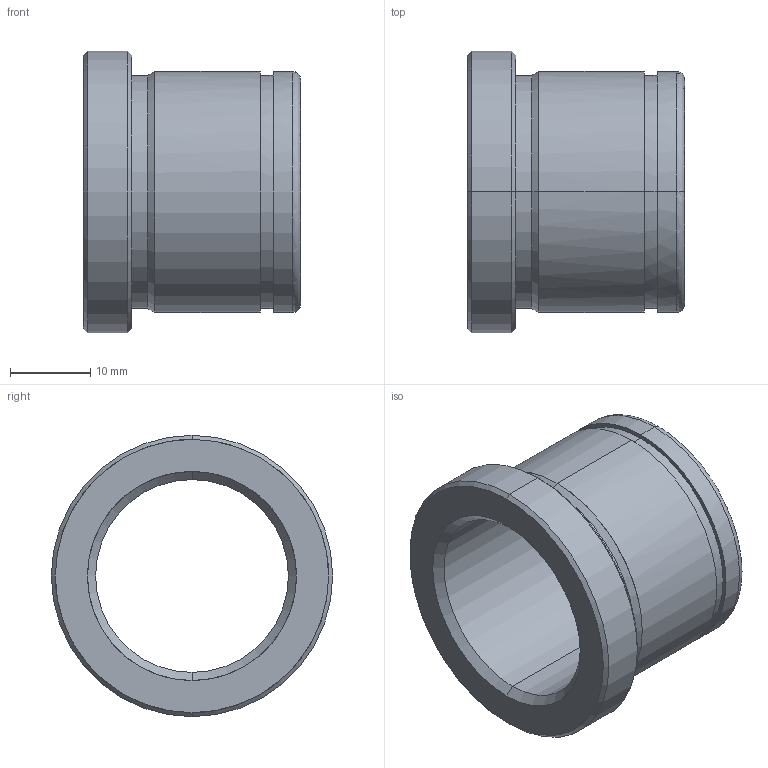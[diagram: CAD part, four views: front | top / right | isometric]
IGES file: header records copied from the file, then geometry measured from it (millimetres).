
Start section: START RECORD GO HERE.
Global section: file name: 553-24X27.igs; native system: DASSAULT SYSTEMES CATIA V5 R20 - www.3ds.com; preprocessor: CATIA Version 5 Release 20 ; author: Utente; organization: NB04-ASUS; date: 20210525.202419; units: millimetre
Bounding box: 27 x 35 x 35 mm (x, y, z)
Surface area: 5636.5 mm2 (no closed solid volume)
Topology: 0 solids, 0 shells, 29 faces, 184 edges, 184 vertices
Faces by surface type: revolution 24, plane 5
